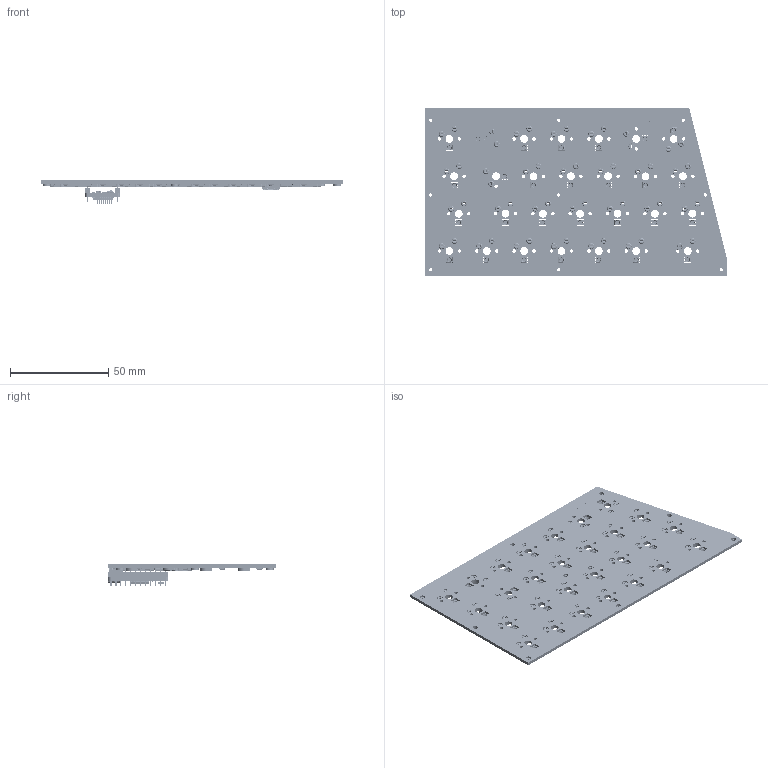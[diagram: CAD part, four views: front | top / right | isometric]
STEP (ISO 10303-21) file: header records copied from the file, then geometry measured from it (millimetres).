
FILE_DESCRIPTION(('KiCad electronic assembly'),'2;1');
FILE_NAME('CustomKeyboard_cradoll_keyboard_left.step', '2025-04-26T12:21:28',('Pcbnew'),('Kicad'), 'Open CASCADE STEP processor 7.8','KiCad to STEP converter','Unknown' );
FILE_SCHEMA(('AUTOMOTIVE_DESIGN { 1 0 10303 214 1 1 1 1 }'));
Length unit declared in the file: millimetre
Products named in the file (24): CustomKeyboard_cradoll_keyboard_left 1; Kailh Hotswap MX v22; LED_SK6812MINI-E; SK6812MINI-E v4; SOD123_DIO; part; TH-0.8-1.0-M2; TH-0.8-1.0-M2 v1; R_0603_1608Metric; C_0603_1608Metric; SOIC-8_3.9x4.9mm_P1.27mm; SOIC_8_39x49mm_P127mm; USB4110GFA; USB4110-GF-A_revB; MSOP-8_3x3mm_P0.65mm; MSOP_8_3x3mm_P065mm; CustomKeyboard_MCU_NonBLE; CustomKeyboard_MCU_NonBLE 1; SOT-353_SC-70-5; SOT_353_SC_70_5; CustomKeyboard_cradoll_keyboard_left_PCB
Assembly tree (136 placements, depth 3):
  CustomKeyboard_cradoll_keyboard_left 1
    Kailh Hotswap MX v22  x28
      Kailh Hotswap MX v22
    LED_SK6812MINI-E  x28
      SK6812MINI-E v4
    SOD123_DIO  x28
      part
    TH-0.8-1.0-M2  x9
      TH-0.8-1.0-M2 v1
    R_0603_1608Metric  x19
      R_0603_1608Metric
    C_0603_1608Metric  x7
      C_0603_1608Metric
    SOIC-8_3.9x4.9mm_P1.27mm
      SOIC_8_39x49mm_P127mm
    USB4110GFA
      USB4110-GF-A_revB
    MSOP-8_3x3mm_P0.65mm
      MSOP_8_3x3mm_P065mm
    CustomKeyboard_MCU_NonBLE
      CustomKeyboard_MCU_NonBLE 1
    SOT-353_SC-70-5
      SOT_353_SC_70_5
    CustomKeyboard_cradoll_keyboard_left_PCB
Bounding box: 153.75 x 85.04 x 11.99 mm (x, y, z)
Volume: 22618.4 mm3; surface area: 41841.3 mm2
Topology: 551 solids, 551 shells, 40355 faces, 93924 edges, 55435 vertices
Faces by surface type: plane 17274, cylinder 11023, bspline 8458, torus 2856, sphere 592, cone 152
Full cylindrical faces by diameter (mm): 0.142 x28, 0.2 x4, 0.25 x1, 0.3 x1, 0.5 x58, 0.6 x1, 0.65 x2, 0.7 x56, 0.75 x112, 1 x80, 1.6 x56, 1.623 x9, 1.75 x56, 2.5 x9, 2.7 x9, 2.92 x56, 3 x56, 3.988 x28, 4 x9
Entity records: 237033 total; most frequent: CARTESIAN_POINT 55149, ORIENTED_EDGE 37612, DIRECTION 35182, EDGE_CURVE 18806, LINE 13802, VECTOR 13802, VERTEX_POINT 11919, AXIS2_PLACEMENT_3D 10690
